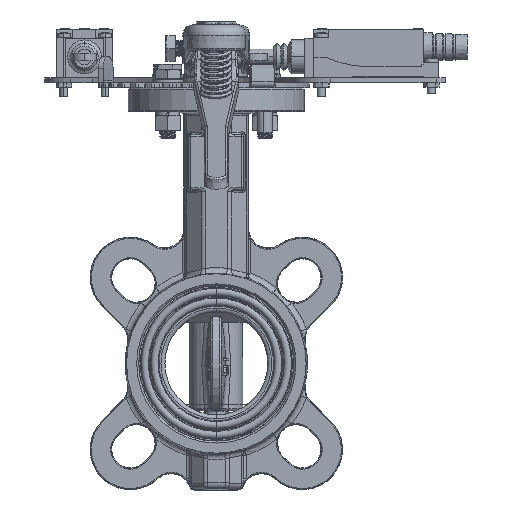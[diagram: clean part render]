
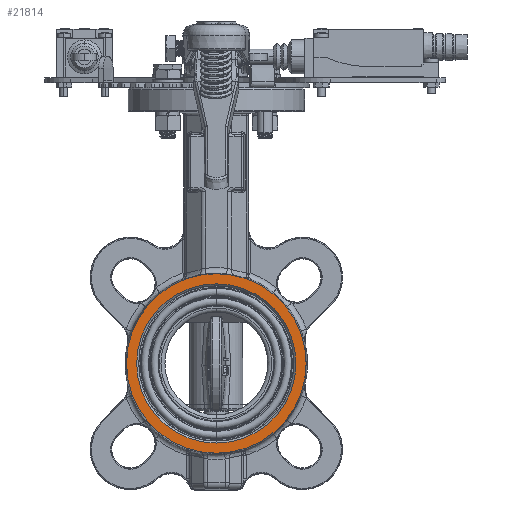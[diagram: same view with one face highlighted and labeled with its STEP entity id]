
A CAD part, front view. The second image highlights one B-rep face of the part: STEP entity #21814.
In plain terms, the highlighted planar face has unit normal (0, -1, 0).
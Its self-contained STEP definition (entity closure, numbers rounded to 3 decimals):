
#12528=EDGE_CURVE('',#35342,#35343,#35344,.T.);
#15282=EDGE_CURVE('',#40068,#40069,#40070,.T.);
#19982=EDGE_CURVE('',#35343,#35342,#47188,.T.);
#21814=ADVANCED_FACE('',(#49683,#49684),#49685,.F.);
#24588=EDGE_CURVE('',#40068,#40069,#53258,.T.);
#35342=VERTEX_POINT('',#68458);
#35343=VERTEX_POINT('',#68459);
#35344=CIRCLE('',#68460,40.575);
#40068=VERTEX_POINT('',#79439);
#40069=VERTEX_POINT('',#79440);
#40070=CIRCLE('',#79441,45.758);
#47188=CIRCLE('',#99531,40.575);
#49683=FACE_BOUND('',#108060,.T.);
#49684=FACE_OUTER_BOUND('',#108061,.T.);
#49685=PLANE('',#108062);
#53258=CIRCLE('',#119077,45.758);
#68458=CARTESIAN_POINT('',(0.,-21.25,-40.575));
#68459=CARTESIAN_POINT('',(0.,-21.25,40.575));
#68460=AXIS2_PLACEMENT_3D('',#157558,#157559,#157560);
#79439=CARTESIAN_POINT('',(0.,-21.25,45.758));
#79440=CARTESIAN_POINT('',(0.,-21.25,-45.758));
#79441=AXIS2_PLACEMENT_3D('',#162314,#162315,#162316);
#99531=AXIS2_PLACEMENT_3D('',#170455,#170456,#170457);
#108060=EDGE_LOOP('',(#173822,#173823));
#108061=EDGE_LOOP('',(#173824,#173825));
#108062=AXIS2_PLACEMENT_3D('',#173826,#173827,#173828);
#119077=AXIS2_PLACEMENT_3D('',#178626,#178627,#178628);
#157558=CARTESIAN_POINT('',(0.,-21.25,0.));
#157559=DIRECTION('',(0.0,1.0,0.0));
#157560=DIRECTION('',(0.,0.0,-1.0));
#162314=CARTESIAN_POINT('',(0.0,-21.25,0.0));
#162315=DIRECTION('',(0.0,-1.0,0.0));
#162316=DIRECTION('',(0.0,0.0,1.0));
#170455=CARTESIAN_POINT('',(0.,-21.25,0.0));
#170456=DIRECTION('',(-0.0,1.0,0.0));
#170457=DIRECTION('',(0.,0.0,1.0));
#173822=ORIENTED_EDGE('',*,*,#12528,.T.);
#173823=ORIENTED_EDGE('',*,*,#19982,.T.);
#173824=ORIENTED_EDGE('',*,*,#24588,.F.);
#173825=ORIENTED_EDGE('',*,*,#15282,.T.);
#173826=CARTESIAN_POINT('',(0.0,-21.25,0.0));
#173827=DIRECTION('',(0.0,1.0,0.0));
#173828=DIRECTION('',(0.0,0.0,-1.0));
#178626=CARTESIAN_POINT('',(0.0,-21.25,0.0));
#178627=DIRECTION('',(0.0,1.0,0.0));
#178628=DIRECTION('',(0.0,0.0,1.0));
